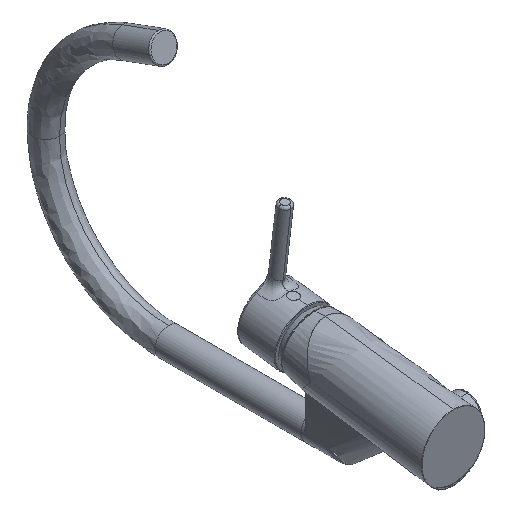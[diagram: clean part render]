
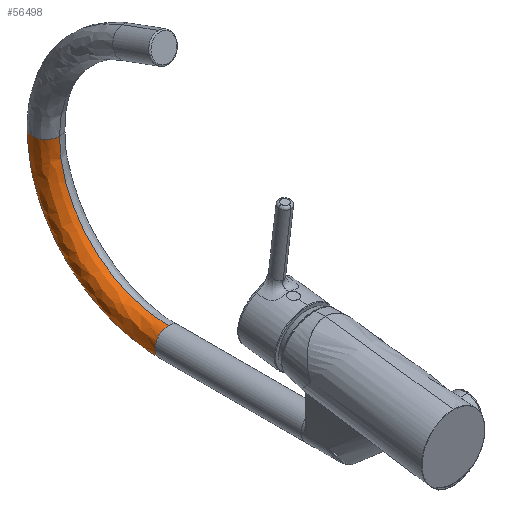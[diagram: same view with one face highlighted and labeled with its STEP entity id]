
A CAD part, isometric view. The second image highlights one B-rep face of the part: STEP entity #56498.
In plain terms, the highlighted free-form (B-spline) face has degree [3, 3] with [4, 4] control points.
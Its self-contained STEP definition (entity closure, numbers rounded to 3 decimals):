
#4967 = CARTESIAN_POINT ( 'NONE',  ( -22.775, 296.24, -31.427 ) ) ;
#5843 = CARTESIAN_POINT ( 'NONE',  ( -22.825, 241.948, -54.231 ) ) ;
#5855 = CARTESIAN_POINT ( 'NONE',  ( 0.025, 241.946, -31.481 ) ) ;
#9314 = EDGE_LOOP ( 'NONE', ( #38268, #50308, #49553, #63135, #42877 ) ) ;
#12023 = CARTESIAN_POINT ( 'NONE',  ( 0., 241.947, -42.881 ) ) ;
#12078 = CARTESIAN_POINT ( 'NONE',  ( 0.025, 296.24, -31.476 ) ) ;
#12657 = AXIS2_PLACEMENT_3D ( 'NONE', #21349, #68662, #34944 ) ;
#12796 = CIRCLE ( 'NONE', #16692, 92.685 ) ;
#14941 = CARTESIAN_POINT ( 'NONE',  ( 0., 241.947, -42.881 ) ) ;
#16692 = AXIS2_PLACEMENT_3D ( 'NONE', #31687, #38772, #59175 ) ;
#19484 = CARTESIAN_POINT ( 'NONE',  ( -22.692, 334.628, 6.968 ) ) ;
#21349 = CARTESIAN_POINT ( 'NONE',  ( 0.225, 346.024, 61.213 ) ) ;
#22937 = CIRCLE ( 'NONE', #12657, 11.4 ) ;
#23102 = CIRCLE ( 'NONE', #55488, 115.485 ) ;
#23514 = VERTEX_POINT ( 'NONE', #52324 ) ;
#25712 = CARTESIAN_POINT ( 'NONE',  ( -22.721, 357.429, -6.386 ) ) ;
#26000 = CARTESIAN_POINT ( 'NONE',  ( -0.025, 241.948, -54.281 ) ) ;
#30577 = VERTEX_POINT ( 'NONE', #46880 ) ;
#31687 = CARTESIAN_POINT ( 'NONE',  ( 0.225, 241.938, 61.205 ) ) ;
#31916 = CARTESIAN_POINT ( 'NONE',  ( 0.108, 334.628, 6.918 ) ) ;
#32503 = CARTESIAN_POINT ( 'NONE',  ( -22.775, 241.946, -31.431 ) ) ;
#34375 = VERTEX_POINT ( 'NONE', #5855 ) ;
#34944 = DIRECTION ( 'NONE',  ( 0., 1., 0. ) ) ;
#37233 = EDGE_CURVE ( 'NONE', #23514, #34375, #47457, .T. ) ;
#37888 = EDGE_CURVE ( 'NONE', #83536, #86047, #23102, .T. ) ;
#38268 = ORIENTED_EDGE ( 'NONE', *, *, #72952, .F. ) ;
#38419 = CARTESIAN_POINT ( 'NONE',  ( 0.225, 334.624, 61.212 ) ) ;
#38772 = DIRECTION ( 'NONE',  ( -1., 0., 0.002 ) ) ;
#39004 = CARTESIAN_POINT ( 'NONE',  ( 0.079, 357.429, -6.436 ) ) ;
#39594 = CARTESIAN_POINT ( 'NONE',  ( -22.575, 334.624, 61.262 ) ) ;
#41447 = CIRCLE ( 'NONE', #51267, 11.4 ) ;
#42877 = ORIENTED_EDGE ( 'NONE', *, *, #37233, .T. ) ;
#46559 = CARTESIAN_POINT ( 'NONE',  ( 0.225, 357.424, 61.214 ) ) ;
#46880 = CARTESIAN_POINT ( 'NONE',  ( 0.225, 334.624, 61.212 ) ) ;
#47457 = CIRCLE ( 'NONE', #85979, 11.4 ) ;
#49089 = CARTESIAN_POINT ( 'NONE',  ( -0.025, 241.948, -54.281 ) ) ;
#49553 = ORIENTED_EDGE ( 'NONE', *, *, #37888, .T. ) ;
#50308 = ORIENTED_EDGE ( 'NONE', *, *, #62741, .T. ) ;
#51267 = AXIS2_PLACEMENT_3D ( 'NONE', #12023, #66152, #60241 ) ;
#52324 = CARTESIAN_POINT ( 'NONE',  ( -11.4, 241.947, -42.856 ) ) ;
#55488 = AXIS2_PLACEMENT_3D ( 'NONE', #69928, #77290, #83778 ) ;
#56498 = ADVANCED_FACE ( 'NONE', ( #67392 ), #79740, .T. ) ;
#59175 = DIRECTION ( 'NONE',  ( 0., 1., 0. ) ) ;
#59705 = CARTESIAN_POINT ( 'NONE',  ( 0.025, 241.946, -31.481 ) ) ;
#60241 = DIRECTION ( 'NONE',  ( -0.002, 0., -1. ) ) ;
#62741 = EDGE_CURVE ( 'NONE', #30577, #83536, #22937, .T. ) ;
#63135 = ORIENTED_EDGE ( 'NONE', *, *, #79408, .T. ) ;
#65917 = CARTESIAN_POINT ( 'NONE',  ( -0.025, 309.598, -54.275 ) ) ;
#66152 = DIRECTION ( 'NONE',  ( 0., 1., 0. ) ) ;
#67392 = FACE_OUTER_BOUND ( 'NONE', #9314, .T. ) ;
#68662 = DIRECTION ( 'NONE',  ( -0.002, 0., -1. ) ) ;
#69928 = CARTESIAN_POINT ( 'NONE',  ( 0.225, 241.938, 61.205 ) ) ;
#72702 = CARTESIAN_POINT ( 'NONE',  ( 0.225, 357.424, 61.214 ) ) ;
#72952 = EDGE_CURVE ( 'NONE', #30577, #34375, #12796, .T. ) ;
#75560 = DIRECTION ( 'NONE',  ( 0., 1., 0. ) ) ;
#77290 = DIRECTION ( 'NONE',  ( -1., 0., 0.002 ) ) ;
#79209 = CARTESIAN_POINT ( 'NONE',  ( -22.825, 309.598, -54.226 ) ) ;
#79408 = EDGE_CURVE ( 'NONE', #86047, #23514, #41447, .T. ) ;
#79740 =( BOUNDED_SURFACE ( )  B_SPLINE_SURFACE ( 3, 3, ( 
 ( #38419, #31916, #12078, #59705 ),
 ( #39594, #19484, #4967, #32503 ),
 ( #86870, #25712, #79209, #5843 ),
 ( #72702, #39004, #65917, #26000 ) ),
 .UNSPECIFIED., .F., .F., .F. ) 
 B_SPLINE_SURFACE_WITH_KNOTS ( ( 4, 4 ),
 ( 4, 4 ),
 ( 0., 1. ),
 ( 0., 1. ),
 .UNSPECIFIED. ) 
 GEOMETRIC_REPRESENTATION_ITEM ( )  RATIONAL_B_SPLINE_SURFACE ( (
 ( 1., 0.805, 0.805, 1.),
 ( 0.333, 0.268, 0.268, 0.333),
 ( 0.333, 0.268, 0.268, 0.333),
 ( 1., 0.805, 0.805, 1.) ) ) 
 REPRESENTATION_ITEM ( '' )  SURFACE ( )  );
#82052 = DIRECTION ( 'NONE',  ( -0.002, 0., -1. ) ) ;
#83536 = VERTEX_POINT ( 'NONE', #46559 ) ;
#83778 = DIRECTION ( 'NONE',  ( 0., 1., 0. ) ) ;
#85979 = AXIS2_PLACEMENT_3D ( 'NONE', #14941, #75560, #82052 ) ;
#86047 = VERTEX_POINT ( 'NONE', #49089 ) ;
#86870 = CARTESIAN_POINT ( 'NONE',  ( -22.575, 357.424, 61.263 ) ) ;
